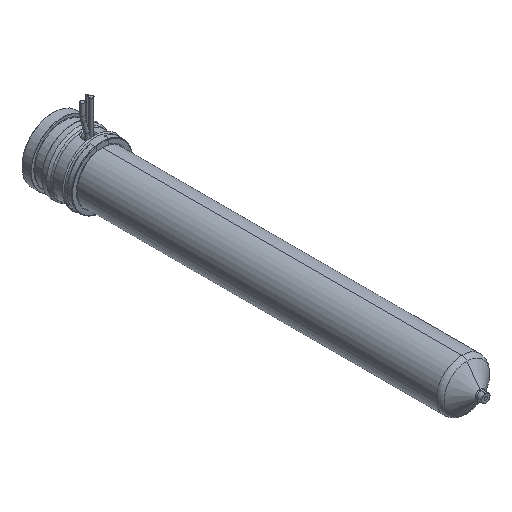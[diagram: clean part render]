
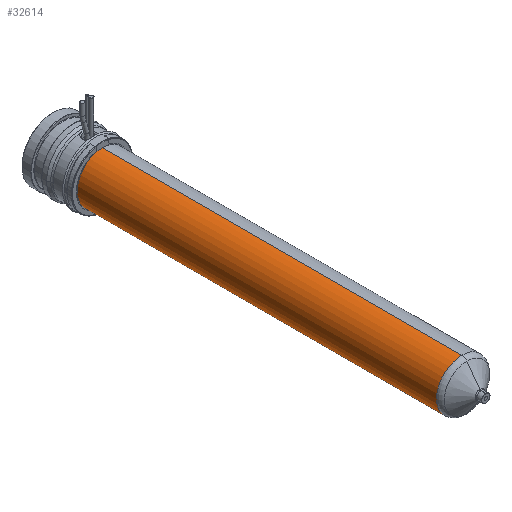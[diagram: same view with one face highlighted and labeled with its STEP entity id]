
A CAD part, isometric view. The second image highlights one B-rep face of the part: STEP entity #32614.
In plain terms, the highlighted cylindrical face has radius 12 mm (diameter 24 mm), a partial arc.
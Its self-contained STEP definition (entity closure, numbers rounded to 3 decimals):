
#32259=CARTESIAN_POINT('',(0.,-24.,0.));
#32260=DIRECTION('',(0.,1.,0.));
#32261=DIRECTION('',(0.,0.,-1.));
#32262=AXIS2_PLACEMENT_3D('',#32259,#32260,#32261);
#32267=DIRECTION('',(0.,1.,0.));
#32268=VECTOR('',#32267,170.671);
#32269=CARTESIAN_POINT('',(0.,-194.671,12.));
#32270=LINE('',#32269,#32268);
#32282=DIRECTION('',(0.,1.,0.));
#32283=VECTOR('',#32282,170.671);
#32284=CARTESIAN_POINT('',(0.,-194.671,-12.));
#32285=LINE('',#32284,#32283);
#32313=CARTESIAN_POINT('',(0.,-194.671,0.));
#32314=DIRECTION('',(0.,-1.,0.));
#32315=DIRECTION('',(0.,0.,1.));
#32316=AXIS2_PLACEMENT_3D('',#32313,#32314,#32315);
#32503=CARTESIAN_POINT('',(0.,-194.671,12.));
#32504=CARTESIAN_POINT('',(0.,-24.,12.));
#32505=VERTEX_POINT('',#32503);
#32506=VERTEX_POINT('',#32504);
#32511=CARTESIAN_POINT('',(0.,-194.671,-12.));
#32512=CARTESIAN_POINT('',(0.,-24.,-12.));
#32513=VERTEX_POINT('',#32511);
#32514=VERTEX_POINT('',#32512);
#32600=CARTESIAN_POINT('',(0.,-10.7,0.));
#32601=DIRECTION('',(0.,-1.,0.));
#32602=DIRECTION('',(0.,0.,1.));
#32603=AXIS2_PLACEMENT_3D('',#32600,#32601,#32602);
#32604=CYLINDRICAL_SURFACE('',#32603,12.);
#32606=ORIENTED_EDGE('',*,*,#32605,.F.);
#32608=ORIENTED_EDGE('',*,*,#32607,.T.);
#32610=ORIENTED_EDGE('',*,*,#32609,.T.);
#32611=ORIENTED_EDGE('',*,*,#32593,.T.);
#32612=EDGE_LOOP('',(#32606,#32608,#32610,#32611));
#32613=FACE_OUTER_BOUND('',#32612,.F.);
#32614=ADVANCED_FACE('',(#32613),#32604,.T.);
#32263=CIRCLE('',#32262,12.);
#32317=CIRCLE('',#32316,12.);
#32593=EDGE_CURVE('',#32514,#32506,#32263,.T.);
#32605=EDGE_CURVE('',#32505,#32506,#32270,.T.);
#32607=EDGE_CURVE('',#32505,#32513,#32317,.T.);
#32609=EDGE_CURVE('',#32513,#32514,#32285,.T.);
